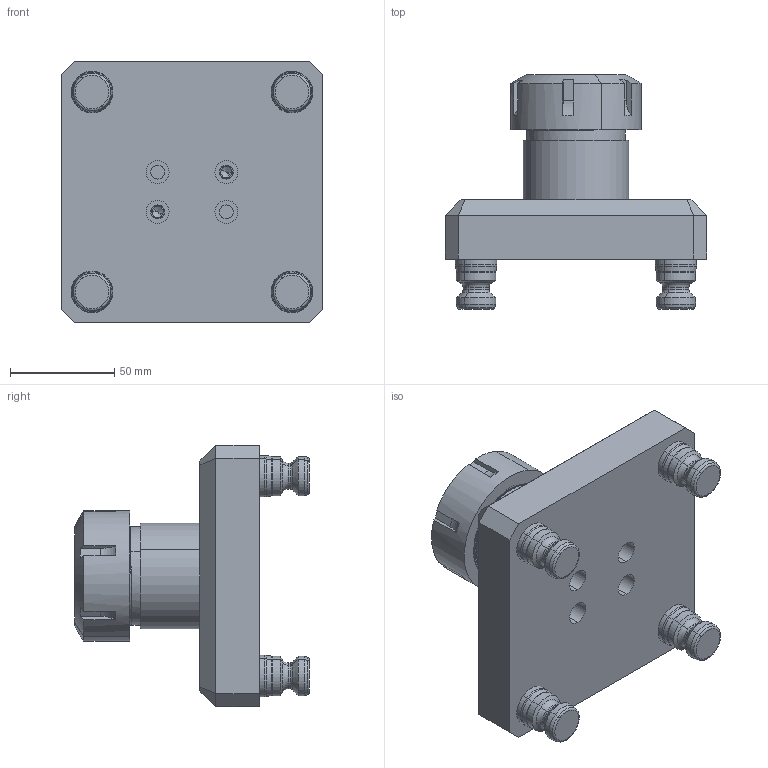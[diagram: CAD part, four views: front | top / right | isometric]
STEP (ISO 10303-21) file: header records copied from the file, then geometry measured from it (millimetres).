
FILE_DESCRIPTION (( 'STEP AP214' ), '1' );
FILE_NAME ('D_R96-CERX-40.STEP', '2020-06-08T16:12:51', ( '' ), ( '' ), 'SwSTEP 2.0', 'SolidWorks 2018', '' );
FILE_SCHEMA (( 'AUTOMOTIVE_DESIGN' ));
Length unit declared in the file: millimetre
Products named in the file (7): D_CERX40-3; D_PS20F_HARD TURN; D_CERX40-1_CER40; D_CERX-40; D_R96-CERX-40; D_R96-CER4032; D_CERX40-2
Assembly tree (9 placements, depth 3):
  D_R96-CERX-40
    D_R96-CER4032
    D_CERX-40
      D_CERX40-1_CER40
      D_CERX40-2
      D_CERX40-3
    D_PS20F_HARD TURN  x4
Bounding box: 125.73 x 112.73 x 125.73 mm (x, y, z)
Volume: 550199.3 mm3; surface area: 106920.6 mm2
Topology: 8 solids, 8 shells, 470 faces, 1144 edges, 701 vertices
Faces by surface type: cylinder 165, plane 154, cone 85, torus 64, bspline 2
Entity records: 12691 total; most frequent: CARTESIAN_POINT 3617, DIRECTION 1861, ORIENTED_EDGE 1800, EDGE_CURVE 900, AXIS2_PLACEMENT_3D 737, VERTEX_POINT 581, EDGE_LOOP 391, LINE 387
